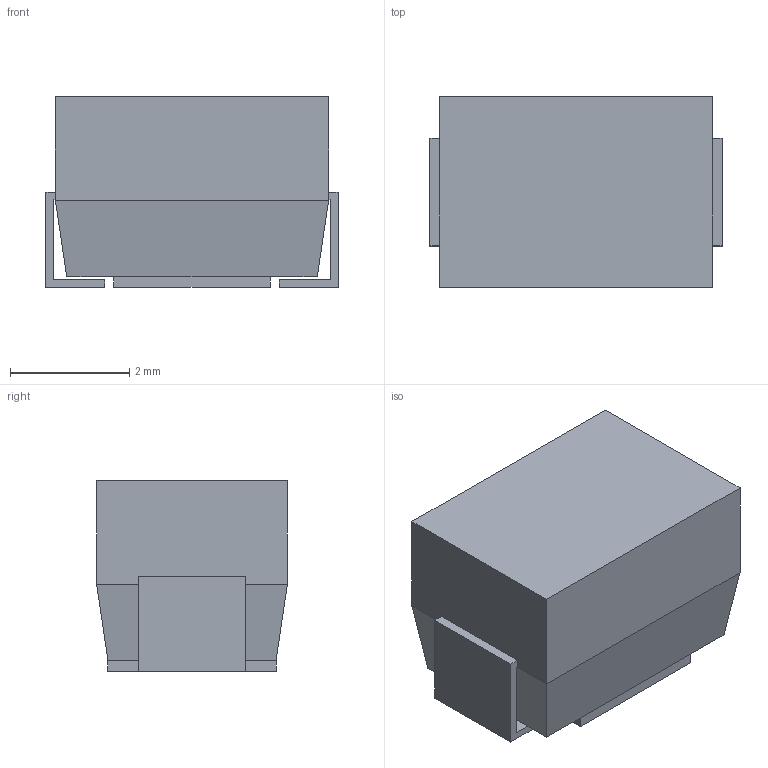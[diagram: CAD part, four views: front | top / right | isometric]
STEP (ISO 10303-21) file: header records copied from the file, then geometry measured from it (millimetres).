
FILE_DESCRIPTION(('STEP AP214'),'1');
FILE_NAME('IND_PM1812','2026-03-04T06:13:09',(''),(''),'','','');
FILE_SCHEMA(('AUTOMOTIVE_DESIGN'));
Length unit declared in the file: millimetre
Products named in the file (1): product
Bounding box: 4.9 x 3.2 x 3.2 mm (x, y, z)
Volume: 45 mm3; surface area: 94.9 mm2
Topology: 3 solids, 3 shells, 36 faces, 82 edges, 52 vertices
Faces by surface type: plane 36
Entity records: 1100 total; most frequent: ORIENTED_EDGE 164, DIRECTION 156, CARTESIAN_POINT 89, EDGE_CURVE 82, LINE 82, VECTOR 82, VERTEX_POINT 52, AXIS2_PLACEMENT_3D 37
